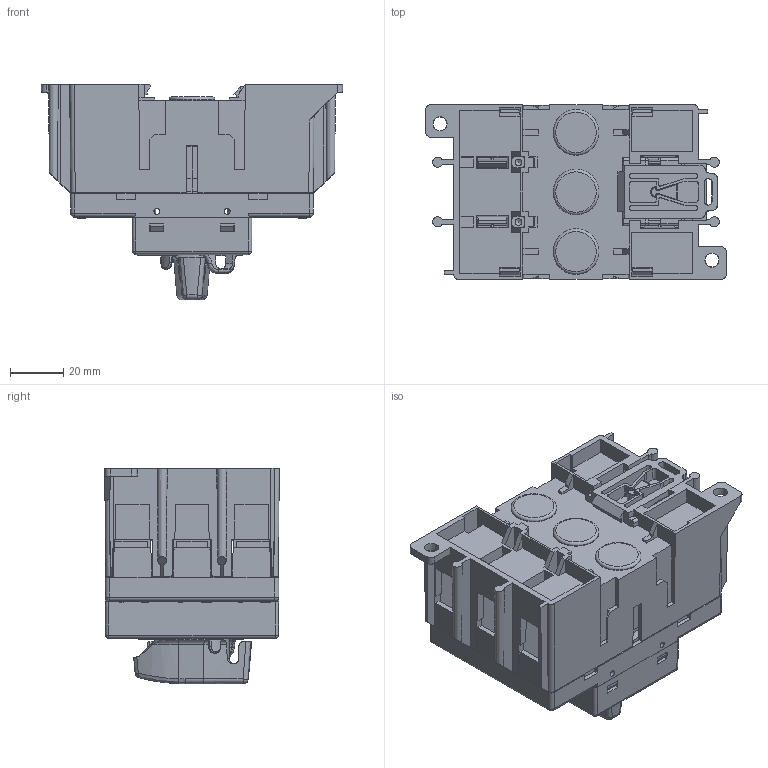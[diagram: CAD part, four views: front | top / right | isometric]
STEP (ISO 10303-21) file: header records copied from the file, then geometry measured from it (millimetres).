
FILE_DESCRIPTION((''),'2;1');
FILE_NAME('Z:\PROGETTI INVENTOR\DIEGO\4 COMMERCIALE - PRODUZIONE - INFORMATIVA\MATERIALE DI COSTRUZIONE\BLOCCHI SOLIDI 2013\BLOCCHI SOLIDI SD3\BLOCCO SD3 3P 2013.stp','2013-02-20T11:07:37',('diego'),(''),'Autodesk Inventor 2013','Autodesk Inventor 2013','');
FILE_SCHEMA(('AUTOMOTIVE_DESIGN { 1 0 10303 214 1 1 1 1 }'));
Length unit declared in the file: millimetre
Products named in the file (1): BLOCCO SD3 3P 2013
Bounding box: 113.2 x 65.6 x 81.05 mm (x, y, z)
Volume: 105819.5 mm3; surface area: 130897 mm2
Topology: 3 solids, 3 shells, 1900 faces, 5268 edges, 3387 vertices
Faces by surface type: plane 1487, cylinder 189, cone 121, bspline 51, torus 28, sphere 24
Full cylindrical faces by diameter (mm): 1.2 x1, 2.2 x4, 2.5 x2, 3.2 x1, 5.4 x1, 12.7 x1, 16.1 x1, 18.1 x1, 24 x1
Entity records: 63772 total; most frequent: CARTESIAN_POINT 13912, ORIENTED_EDGE 10336, DIRECTION 9304, EDGE_CURVE 5168, VECTOR 4232, LINE 4232, VERTEX_POINT 3365, AXIS2_PLACEMENT_3D 2536
